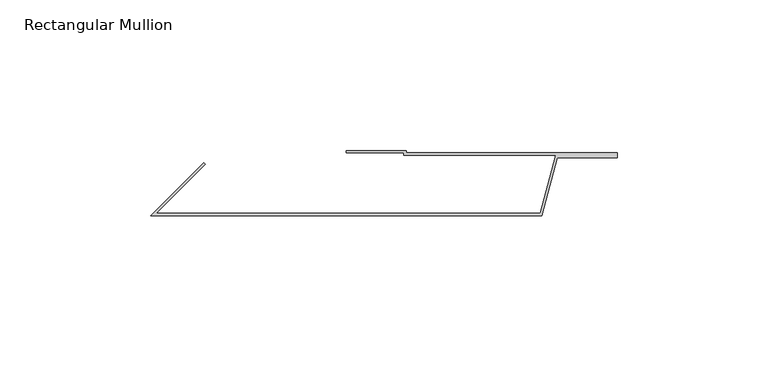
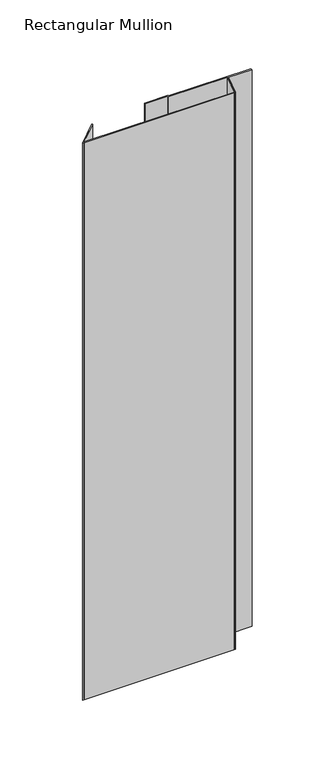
"""IFC4 building model written with IfcOpenShell, lengths in millimetres: member geometry, Rectangular Mullion : TI-V-01_02_Joint flashing."""

from ifc_helpers import new_model, si_unit, frame, origin, place, context, project, spatial, polyline, outline, extrude, source, transform, mapped, element, save


def rectangular_mullion_ab42efd6(model_context):
    return source(origin(), model_context, "Body", "SweptSolid", [
        extrude(outline(polyline([(0.0, 0.0), (0.0, -0.8), (70.1186468, -0.8), (70.1186468, -2.4), (50.1763809, -2.4), (45.0, -21.7185165), (-85.0, -21.7185165), (-67.3223305, -4.040847), (-66.756645, -4.6065324), (-83.0686292, -20.9185165), (44.3861384, -20.9185165), (49.5625193, -1.6), (-0.8, -1.6), (-0.8, -0.8), (-20.0, -0.8), (-20.0, 0.0), (0.0, 0.0)])), frame((0.0, 0.0, -499.9999997), z_axis=(0.0, 0.0, 1.0), x_axis=(1.0, 0.0, 0.0)), (0.0, 0.0, 1.0), 499.9999997),
    ])


if __name__ == "__main__":
    model = new_model("IFC4")
    model_context = context("Model", 3, world=origin())
    ifc_project = project(units=[si_unit("LENGTHUNIT", "METRE", prefix="MILLI")], contexts=[model_context])
    site = spatial("IfcSite", under=ifc_project)
    building = spatial("IfcBuilding", under=site)
    placement = place(None, origin())
    rectangular_mullion_shape = rectangular_mullion_ab42efd6(model_context)
    element("IfcMember", 1, ObjectType="Rectangular Mullion : TI-V-01_02_Joint flashing", at=placement, inside=building, context=model_context, shape_type="MappedRepresentation", body=[
        mapped(rectangular_mullion_shape, transform((0.0, 0.0, 0.0), x_axis=(1.0, 0.0, 0.0), y_axis=(0.0, 1.0, 0.0), z_axis=(0.0, 0.0, 1.0))),
    ])
    save(model, "model.ifc")
